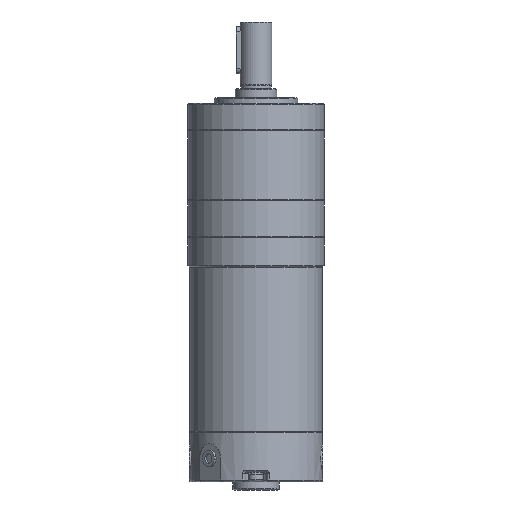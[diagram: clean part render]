
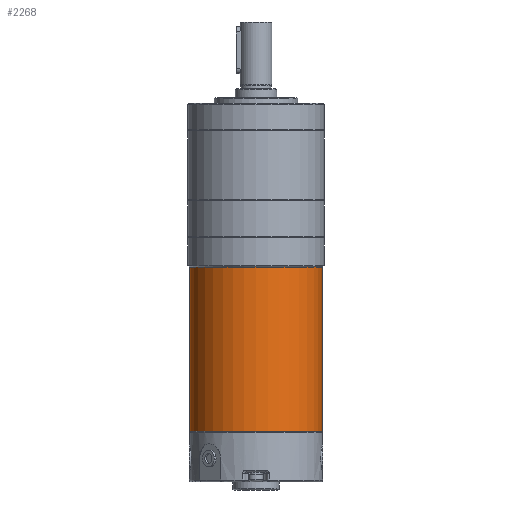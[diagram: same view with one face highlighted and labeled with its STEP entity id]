
A CAD part, front view. The second image highlights one B-rep face of the part: STEP entity #2268.
In plain terms, the highlighted cylindrical face has radius 40 mm (diameter 80 mm), a partial arc.
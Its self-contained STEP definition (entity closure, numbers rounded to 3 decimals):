
#57 = EDGE_CURVE ( 'NONE', #5156, #5947, #5847, .T. ) ;
#497 = CARTESIAN_POINT ( 'NONE',  ( -40., 0., 87.5 ) ) ;
#736 = EDGE_CURVE ( 'NONE', #3103, #4421, #8960, .T. ) ;
#842 = LINE ( 'NONE', #2898, #6074 ) ;
#1044 = CARTESIAN_POINT ( 'NONE',  ( 0., 0., -11.5 ) ) ;
#1190 = DIRECTION ( 'NONE',  ( -1., 0., 0. ) ) ;
#1214 = AXIS2_PLACEMENT_3D ( 'NONE', #4738, #1986, #1190 ) ;
#1497 = DIRECTION ( 'NONE',  ( 0., 0., 1. ) ) ;
#1760 = DIRECTION ( 'NONE',  ( -1., 0., 0. ) ) ;
#1986 = DIRECTION ( 'NONE',  ( 0., 0., 1. ) ) ;
#2268 = ADVANCED_FACE ( 'NONE', ( #6002 ), #2445, .T. ) ;
#2339 = CARTESIAN_POINT ( 'NONE',  ( 40., 0., 87.5 ) ) ;
#2445 = CYLINDRICAL_SURFACE ( 'NONE', #2854, 40. ) ;
#2488 = DIRECTION ( 'NONE',  ( 1., 0., 0. ) ) ;
#2854 = AXIS2_PLACEMENT_3D ( 'NONE', #1044, #6759, #2488 ) ;
#2898 = CARTESIAN_POINT ( 'NONE',  ( -40., 0., -11.5 ) ) ;
#3103 = VERTEX_POINT ( 'NONE', #2339 ) ;
#4054 = EDGE_LOOP ( 'NONE', ( #5125, #7777, #6222, #6508 ) ) ;
#4207 = EDGE_CURVE ( 'NONE', #5156, #4421, #842, .T. ) ;
#4421 = VERTEX_POINT ( 'NONE', #497 ) ;
#4699 = CARTESIAN_POINT ( 'NONE',  ( 40., 0., -11.5 ) ) ;
#4738 = CARTESIAN_POINT ( 'NONE',  ( 0., 0., -11.2 ) ) ;
#4771 = VECTOR ( 'NONE', #6339, 1000. ) ;
#4871 = LINE ( 'NONE', #4699, #4771 ) ;
#4924 = EDGE_CURVE ( 'NONE', #5947, #3103, #4871, .T. ) ;
#5125 = ORIENTED_EDGE ( 'NONE', *, *, #4207, .F. ) ;
#5156 = VERTEX_POINT ( 'NONE', #8297 ) ;
#5375 = AXIS2_PLACEMENT_3D ( 'NONE', #6018, #8182, #1760 ) ;
#5847 = CIRCLE ( 'NONE', #1214, 40. ) ;
#5947 = VERTEX_POINT ( 'NONE', #7949 ) ;
#6002 = FACE_OUTER_BOUND ( 'NONE', #4054, .T. ) ;
#6018 = CARTESIAN_POINT ( 'NONE',  ( 0., 0., 87.5 ) ) ;
#6074 = VECTOR ( 'NONE', #1497, 1000. ) ;
#6222 = ORIENTED_EDGE ( 'NONE', *, *, #4924, .T. ) ;
#6339 = DIRECTION ( 'NONE',  ( 0., 0., 1. ) ) ;
#6508 = ORIENTED_EDGE ( 'NONE', *, *, #736, .T. ) ;
#6759 = DIRECTION ( 'NONE',  ( 0., 0., 1. ) ) ;
#7777 = ORIENTED_EDGE ( 'NONE', *, *, #57, .T. ) ;
#7949 = CARTESIAN_POINT ( 'NONE',  ( 40., 0., -11.2 ) ) ;
#8182 = DIRECTION ( 'NONE',  ( 0., 0., -1. ) ) ;
#8297 = CARTESIAN_POINT ( 'NONE',  ( -40., 0., -11.2 ) ) ;
#8960 = CIRCLE ( 'NONE', #5375, 40. ) ;
